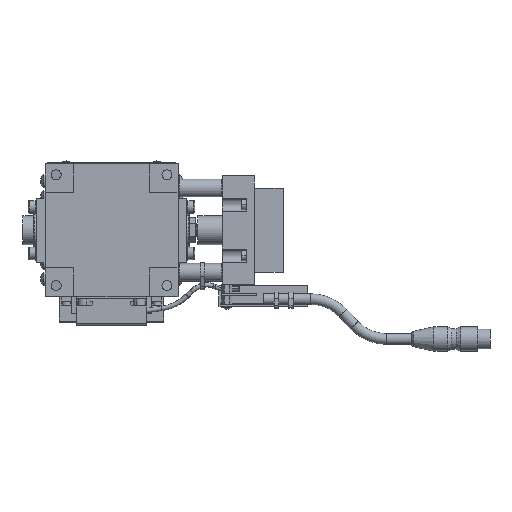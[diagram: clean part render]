
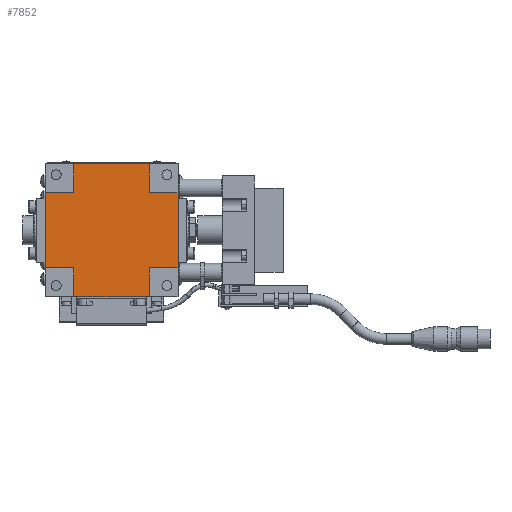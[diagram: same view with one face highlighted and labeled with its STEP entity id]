
A CAD part, front view. The second image highlights one B-rep face of the part: STEP entity #7852.
In plain terms, the highlighted planar face has unit normal (0, -1, 0).
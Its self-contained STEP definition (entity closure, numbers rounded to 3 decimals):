
#83 = VERTEX_POINT ( 'NONE', #9209 ) ;
#1156 = LINE ( 'NONE', #1835, #20840 ) ;
#1780 = DIRECTION ( 'NONE',  ( -1., 0., 0. ) ) ;
#1835 = CARTESIAN_POINT ( 'NONE',  ( -30., 0.3, 17. ) ) ;
#1913 = EDGE_CURVE ( 'NONE', #8225, #28247, #25554, .T. ) ;
#2155 = DIRECTION ( 'NONE',  ( 1., 0., 0. ) ) ;
#2603 = CARTESIAN_POINT ( 'NONE',  ( 17., 0.3, -17. ) ) ;
#2731 = VECTOR ( 'NONE', #2155, 1000. ) ;
#2931 = DIRECTION ( 'NONE',  ( -1., 0., 0. ) ) ;
#3075 = FACE_OUTER_BOUND ( 'NONE', #9389, .T. ) ;
#3172 = EDGE_CURVE ( 'NONE', #17473, #22421, #18697, .T. ) ;
#3287 = CARTESIAN_POINT ( 'NONE',  ( 30., 0.3, 17. ) ) ;
#3708 = LINE ( 'NONE', #15026, #26579 ) ;
#4293 = CARTESIAN_POINT ( 'NONE',  ( 0., 0.3, 0. ) ) ;
#4413 = CARTESIAN_POINT ( 'NONE',  ( -17., 0.3, -30. ) ) ;
#4905 = CARTESIAN_POINT ( 'NONE',  ( -30., 0.3, 17. ) ) ;
#5372 = VECTOR ( 'NONE', #2931, 1000. ) ;
#5740 = VERTEX_POINT ( 'NONE', #2603 ) ;
#5763 = DIRECTION ( 'NONE',  ( -1., 0., 0. ) ) ;
#6512 = CARTESIAN_POINT ( 'NONE',  ( 17., 0.3, -30. ) ) ;
#6562 = EDGE_CURVE ( 'NONE', #15595, #8225, #13546, .T. ) ;
#6905 = VECTOR ( 'NONE', #11148, 1000. ) ;
#7380 = VECTOR ( 'NONE', #23212, 1000. ) ;
#7559 = CARTESIAN_POINT ( 'NONE',  ( -30., 0.3, 17. ) ) ;
#7852 = ADVANCED_FACE ( 'NONE', ( #3075 ), #15675, .F. ) ;
#7931 = CARTESIAN_POINT ( 'NONE',  ( -17., 0.3, 30. ) ) ;
#8225 = VERTEX_POINT ( 'NONE', #18667 ) ;
#8922 = LINE ( 'NONE', #14050, #19946 ) ;
#9209 = CARTESIAN_POINT ( 'NONE',  ( 30., 0.3, -17. ) ) ;
#9389 = EDGE_LOOP ( 'NONE', ( #12927, #14151, #29072, #21508, #12591, #27358, #17923, #14791, #26973, #13796, #19720, #25762 ) ) ;
#9932 = CARTESIAN_POINT ( 'NONE',  ( 30., 0.3, 17. ) ) ;
#10115 = CARTESIAN_POINT ( 'NONE',  ( -17., 0.3, 17. ) ) ;
#10626 = LINE ( 'NONE', #20728, #2731 ) ;
#11148 = DIRECTION ( 'NONE',  ( 1., 0., 0. ) ) ;
#11209 = DIRECTION ( 'NONE',  ( 0., 1., 0. ) ) ;
#12591 = ORIENTED_EDGE ( 'NONE', *, *, #22722, .T. ) ;
#12927 = ORIENTED_EDGE ( 'NONE', *, *, #13037, .T. ) ;
#13037 = EDGE_CURVE ( 'NONE', #5740, #83, #10626, .T. ) ;
#13546 = LINE ( 'NONE', #4413, #26400 ) ;
#13796 = ORIENTED_EDGE ( 'NONE', *, *, #6562, .T. ) ;
#13802 = VERTEX_POINT ( 'NONE', #7931 ) ;
#14050 = CARTESIAN_POINT ( 'NONE',  ( 17., 0.3, -30. ) ) ;
#14075 = DIRECTION ( 'NONE',  ( 0., 0., 1. ) ) ;
#14151 = ORIENTED_EDGE ( 'NONE', *, *, #28079, .T. ) ;
#14739 = LINE ( 'NONE', #24799, #6905 ) ;
#14791 = ORIENTED_EDGE ( 'NONE', *, *, #15760, .T. ) ;
#15026 = CARTESIAN_POINT ( 'NONE',  ( 17., 0.3, 17. ) ) ;
#15087 = EDGE_CURVE ( 'NONE', #25914, #17473, #3708, .T. ) ;
#15319 = VECTOR ( 'NONE', #19663, 1000. ) ;
#15595 = VERTEX_POINT ( 'NONE', #21605 ) ;
#15675 = PLANE ( 'NONE',  #29405 ) ;
#15689 = VERTEX_POINT ( 'NONE', #19531 ) ;
#15760 = EDGE_CURVE ( 'NONE', #22938, #15689, #1156, .T. ) ;
#15815 = VECTOR ( 'NONE', #14075, 1000. ) ;
#16107 = DIRECTION ( 'NONE',  ( 0., 0., -1. ) ) ;
#17473 = VERTEX_POINT ( 'NONE', #24990 ) ;
#17556 = EDGE_CURVE ( 'NONE', #24292, #22938, #26406, .T. ) ;
#17610 = DIRECTION ( 'NONE',  ( -1., 0., 0. ) ) ;
#17704 = CARTESIAN_POINT ( 'NONE',  ( -17., 0.3, 30. ) ) ;
#17923 = ORIENTED_EDGE ( 'NONE', *, *, #17556, .T. ) ;
#18256 = EDGE_CURVE ( 'NONE', #28247, #5740, #8922, .T. ) ;
#18512 = CARTESIAN_POINT ( 'NONE',  ( 17., 0.3, 30. ) ) ;
#18667 = CARTESIAN_POINT ( 'NONE',  ( -17., 0.3, -30. ) ) ;
#18697 = LINE ( 'NONE', #25544, #15815 ) ;
#19083 = VECTOR ( 'NONE', #28244, 1000. ) ;
#19531 = CARTESIAN_POINT ( 'NONE',  ( -30., 0.3, -17. ) ) ;
#19663 = DIRECTION ( 'NONE',  ( 0., 0., -1. ) ) ;
#19720 = ORIENTED_EDGE ( 'NONE', *, *, #1913, .T. ) ;
#19946 = VECTOR ( 'NONE', #23122, 1000. ) ;
#20728 = CARTESIAN_POINT ( 'NONE',  ( 17., 0.3, -17. ) ) ;
#20840 = VECTOR ( 'NONE', #16107, 1000. ) ;
#21508 = ORIENTED_EDGE ( 'NONE', *, *, #3172, .T. ) ;
#21605 = CARTESIAN_POINT ( 'NONE',  ( -17., 0.3, -17. ) ) ;
#22146 = LINE ( 'NONE', #17704, #27133 ) ;
#22421 = VERTEX_POINT ( 'NONE', #18512 ) ;
#22722 = EDGE_CURVE ( 'NONE', #22421, #13802, #22146, .T. ) ;
#22938 = VERTEX_POINT ( 'NONE', #4905 ) ;
#23122 = DIRECTION ( 'NONE',  ( 0., 0., 1. ) ) ;
#23212 = DIRECTION ( 'NONE',  ( 1., 0., 0. ) ) ;
#23523 = LINE ( 'NONE', #28435, #15319 ) ;
#24192 = EDGE_CURVE ( 'NONE', #13802, #24292, #23523, .T. ) ;
#24292 = VERTEX_POINT ( 'NONE', #10115 ) ;
#24577 = DIRECTION ( 'NONE',  ( 0., 0., -1. ) ) ;
#24799 = CARTESIAN_POINT ( 'NONE',  ( -30., 0.3, -17. ) ) ;
#24990 = CARTESIAN_POINT ( 'NONE',  ( 17., 0.3, 17. ) ) ;
#25544 = CARTESIAN_POINT ( 'NONE',  ( 17., 0.3, 17. ) ) ;
#25554 = LINE ( 'NONE', #29613, #7380 ) ;
#25762 = ORIENTED_EDGE ( 'NONE', *, *, #18256, .T. ) ;
#25859 = LINE ( 'NONE', #9932, #19083 ) ;
#25914 = VERTEX_POINT ( 'NONE', #3287 ) ;
#26400 = VECTOR ( 'NONE', #24577, 1000. ) ;
#26406 = LINE ( 'NONE', #7559, #5372 ) ;
#26579 = VECTOR ( 'NONE', #5763, 1000. ) ;
#26973 = ORIENTED_EDGE ( 'NONE', *, *, #28856, .T. ) ;
#27133 = VECTOR ( 'NONE', #17610, 1000. ) ;
#27358 = ORIENTED_EDGE ( 'NONE', *, *, #24192, .T. ) ;
#28079 = EDGE_CURVE ( 'NONE', #83, #25914, #25859, .T. ) ;
#28244 = DIRECTION ( 'NONE',  ( 0., 0., 1. ) ) ;
#28247 = VERTEX_POINT ( 'NONE', #6512 ) ;
#28435 = CARTESIAN_POINT ( 'NONE',  ( -17., 0.3, 17. ) ) ;
#28856 = EDGE_CURVE ( 'NONE', #15689, #15595, #14739, .T. ) ;
#29072 = ORIENTED_EDGE ( 'NONE', *, *, #15087, .T. ) ;
#29405 = AXIS2_PLACEMENT_3D ( 'NONE', #4293, #11209, #1780 ) ;
#29613 = CARTESIAN_POINT ( 'NONE',  ( -17., 0.3, -30. ) ) ;
